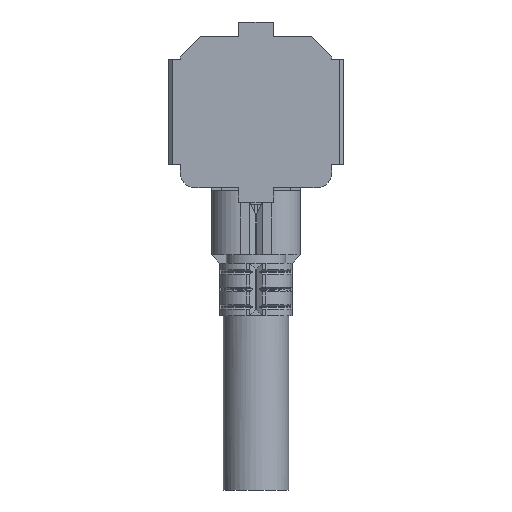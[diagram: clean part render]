
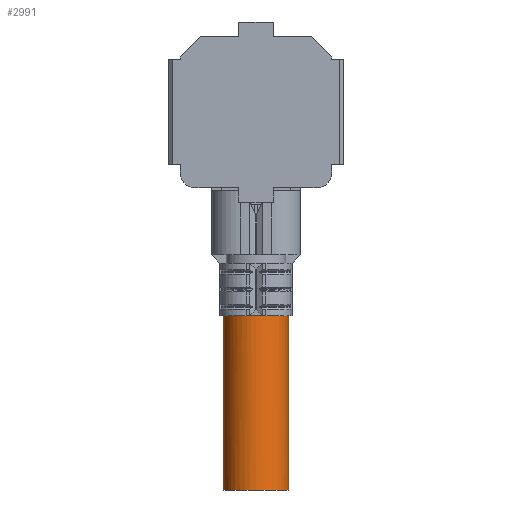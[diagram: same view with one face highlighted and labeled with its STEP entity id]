
A CAD part, front view. The second image highlights one B-rep face of the part: STEP entity #2991.
In plain terms, the highlighted cylindrical face has radius 0.565 mm (diameter 1.13 mm), a partial arc.
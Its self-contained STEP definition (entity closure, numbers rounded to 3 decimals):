
#93 = VECTOR ( 'NONE', #5178, 1000. ) ;
#110 = CARTESIAN_POINT ( 'NONE',  ( -0.565, 0.817, -8.5 ) ) ;
#279 = VERTEX_POINT ( 'NONE', #3874 ) ;
#346 = CARTESIAN_POINT ( 'NONE',  ( 0.159, 0.275, -3.5 ) ) ;
#492 = ORIENTED_EDGE ( 'NONE', *, *, #4981, .T. ) ;
#880 = CIRCLE ( 'NONE', #7744, 0.565 ) ;
#912 = DIRECTION ( 'NONE',  ( 0., 0., 1. ) ) ;
#977 = CARTESIAN_POINT ( 'NONE',  ( -0.565, 0.817, -6.5 ) ) ;
#2064 = DIRECTION ( 'NONE',  ( 0., 0., -1. ) ) ;
#2146 = EDGE_LOOP ( 'NONE', ( #8657, #9965, #9295, #492, #9774, #10432 ) ) ;
#2251 = DIRECTION ( 'NONE',  ( 0., 0., 1. ) ) ;
#2470 = AXIS2_PLACEMENT_3D ( 'NONE', #4101, #2251, #8916 ) ;
#2991 = ADVANCED_FACE ( 'NONE', ( #10284 ), #5200, .T. ) ;
#3201 = DIRECTION ( 'NONE',  ( 0., 0., -1. ) ) ;
#3247 = VERTEX_POINT ( 'NONE', #977 ) ;
#3282 = AXIS2_PLACEMENT_3D ( 'NONE', #7764, #2064, #8722 ) ;
#3606 = EDGE_CURVE ( 'NONE', #10677, #6433, #880, .T. ) ;
#3695 = VERTEX_POINT ( 'NONE', #10924 ) ;
#3720 = CARTESIAN_POINT ( 'NONE',  ( 0., 0.817, -3.5 ) ) ;
#3874 = CARTESIAN_POINT ( 'NONE',  ( 0.565, 0.817, -6.5 ) ) ;
#3954 = VECTOR ( 'NONE', #6785, 1000. ) ;
#4061 = AXIS2_PLACEMENT_3D ( 'NONE', #6634, #912, #7578 ) ;
#4101 = CARTESIAN_POINT ( 'NONE',  ( 0., 0.817, -8.5 ) ) ;
#4558 = CIRCLE ( 'NONE', #4712, 0.565 ) ;
#4681 = DIRECTION ( 'NONE',  ( -1., 0., 0. ) ) ;
#4712 = AXIS2_PLACEMENT_3D ( 'NONE', #3720, #10404, #4681 ) ;
#4981 = EDGE_CURVE ( 'NONE', #3695, #11608, #4558, .T. ) ;
#5178 = DIRECTION ( 'NONE',  ( 0., 0., 1. ) ) ;
#5200 = CYLINDRICAL_SURFACE ( 'NONE', #2470, 0.565 ) ;
#6190 = CARTESIAN_POINT ( 'NONE',  ( 0.565, 0.817, -8.5 ) ) ;
#6352 = CIRCLE ( 'NONE', #3282, 0.565 ) ;
#6433 = VERTEX_POINT ( 'NONE', #11488 ) ;
#6523 = LINE ( 'NONE', #110, #3954 ) ;
#6634 = CARTESIAN_POINT ( 'NONE',  ( 0., 0.817, -6.5 ) ) ;
#6785 = DIRECTION ( 'NONE',  ( 0., 0., 1. ) ) ;
#7578 = DIRECTION ( 'NONE',  ( 1., 0., 0. ) ) ;
#7744 = AXIS2_PLACEMENT_3D ( 'NONE', #8937, #3201, #9895 ) ;
#7764 = CARTESIAN_POINT ( 'NONE',  ( 0., 0.817, -3.5 ) ) ;
#7789 = EDGE_CURVE ( 'NONE', #3247, #279, #10076, .T. ) ;
#8366 = EDGE_CURVE ( 'NONE', #3247, #6433, #6523, .T. ) ;
#8642 = CARTESIAN_POINT ( 'NONE',  ( -0.159, 0.275, -3.5 ) ) ;
#8657 = ORIENTED_EDGE ( 'NONE', *, *, #8366, .F. ) ;
#8722 = DIRECTION ( 'NONE',  ( -1., 0., 0. ) ) ;
#8807 = EDGE_CURVE ( 'NONE', #279, #3695, #9927, .T. ) ;
#8916 = DIRECTION ( 'NONE',  ( 1., 0., 0. ) ) ;
#8937 = CARTESIAN_POINT ( 'NONE',  ( 0., 0.817, -3.5 ) ) ;
#9139 = EDGE_CURVE ( 'NONE', #11608, #10677, #6352, .T. ) ;
#9295 = ORIENTED_EDGE ( 'NONE', *, *, #8807, .T. ) ;
#9774 = ORIENTED_EDGE ( 'NONE', *, *, #9139, .T. ) ;
#9895 = DIRECTION ( 'NONE',  ( -1., 0., 0. ) ) ;
#9927 = LINE ( 'NONE', #6190, #93 ) ;
#9965 = ORIENTED_EDGE ( 'NONE', *, *, #7789, .T. ) ;
#10076 = CIRCLE ( 'NONE', #4061, 0.565 ) ;
#10284 = FACE_OUTER_BOUND ( 'NONE', #2146, .T. ) ;
#10404 = DIRECTION ( 'NONE',  ( 0., 0., -1. ) ) ;
#10432 = ORIENTED_EDGE ( 'NONE', *, *, #3606, .T. ) ;
#10677 = VERTEX_POINT ( 'NONE', #8642 ) ;
#10924 = CARTESIAN_POINT ( 'NONE',  ( 0.565, 0.817, -3.5 ) ) ;
#11488 = CARTESIAN_POINT ( 'NONE',  ( -0.565, 0.817, -3.5 ) ) ;
#11608 = VERTEX_POINT ( 'NONE', #346 ) ;
